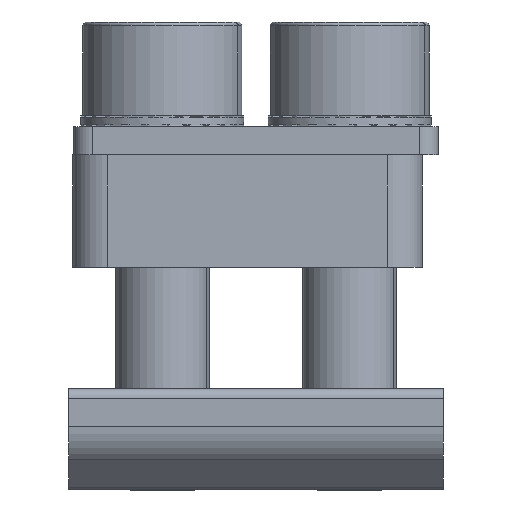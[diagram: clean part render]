
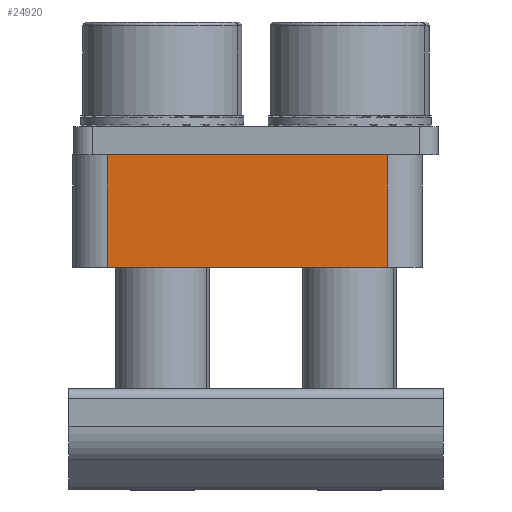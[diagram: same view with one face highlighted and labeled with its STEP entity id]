
A CAD part, front view. The second image highlights one B-rep face of the part: STEP entity #24920.
In plain terms, the highlighted planar face has unit normal (0, -1, 0).
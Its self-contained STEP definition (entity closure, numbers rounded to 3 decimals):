
#856 = VECTOR ( 'NONE', #24865, 1000. ) ;
#1020 = FACE_OUTER_BOUND ( 'NONE', #3218, .T. ) ;
#1109 = ORIENTED_EDGE ( 'NONE', *, *, #1941, .T. ) ;
#1941 = EDGE_CURVE ( 'NONE', #20655, #14446, #18126, .T. ) ;
#2312 = CARTESIAN_POINT ( 'NONE',  ( -141.008, -32.475, 69.693 ) ) ;
#3010 = CARTESIAN_POINT ( 'NONE',  ( -141.008, -32.475, 75.693 ) ) ;
#3218 = EDGE_LOOP ( 'NONE', ( #1109, #16205, #7694, #18033 ) ) ;
#6026 = CARTESIAN_POINT ( 'NONE',  ( -133.541, -32.475, 69.693 ) ) ;
#6259 = EDGE_CURVE ( 'NONE', #14446, #20984, #22354, .T. ) ;
#6761 = DIRECTION ( 'NONE',  ( 0., -1., 0. ) ) ;
#7414 = CARTESIAN_POINT ( 'NONE',  ( -148.475, -32.475, 75.693 ) ) ;
#7694 = ORIENTED_EDGE ( 'NONE', *, *, #19590, .F. ) ;
#10272 = CARTESIAN_POINT ( 'NONE',  ( -148.475, -32.475, 69.693 ) ) ;
#11872 = CARTESIAN_POINT ( 'NONE',  ( -133.541, -32.475, 75.693 ) ) ;
#12204 = DIRECTION ( 'NONE',  ( 0., 0., 1. ) ) ;
#12507 = PLANE ( 'NONE',  #21326 ) ;
#13341 = CARTESIAN_POINT ( 'NONE',  ( -148.475, -32.475, 72.693 ) ) ;
#14446 = VERTEX_POINT ( 'NONE', #6026 ) ;
#16205 = ORIENTED_EDGE ( 'NONE', *, *, #6259, .T. ) ;
#16265 = VECTOR ( 'NONE', #20487, 1000. ) ;
#17652 = EDGE_CURVE ( 'NONE', #19740, #20655, #20885, .T. ) ;
#17840 = DIRECTION ( 'NONE',  ( 1., 0., 0. ) ) ;
#18033 = ORIENTED_EDGE ( 'NONE', *, *, #17652, .T. ) ;
#18126 = LINE ( 'NONE', #2312, #23234 ) ;
#18411 = CARTESIAN_POINT ( 'NONE',  ( -148.475, -32.475, 75.693 ) ) ;
#19590 = EDGE_CURVE ( 'NONE', #19740, #20984, #21412, .T. ) ;
#19740 = VERTEX_POINT ( 'NONE', #7414 ) ;
#20360 = DIRECTION ( 'NONE',  ( 0., 0., -1. ) ) ;
#20487 = DIRECTION ( 'NONE',  ( 1., 0., 0. ) ) ;
#20655 = VERTEX_POINT ( 'NONE', #10272 ) ;
#20885 = LINE ( 'NONE', #13341, #856 ) ;
#20984 = VERTEX_POINT ( 'NONE', #11872 ) ;
#21326 = AXIS2_PLACEMENT_3D ( 'NONE', #18411, #6761, #20360 ) ;
#21412 = LINE ( 'NONE', #3010, #16265 ) ;
#21761 = VECTOR ( 'NONE', #12204, 1000. ) ;
#21807 = CARTESIAN_POINT ( 'NONE',  ( -133.541, -32.475, 72.693 ) ) ;
#22354 = LINE ( 'NONE', #21807, #21761 ) ;
#23234 = VECTOR ( 'NONE', #17840, 1000. ) ;
#24865 = DIRECTION ( 'NONE',  ( 0., 0., -1. ) ) ;
#24920 = ADVANCED_FACE ( 'NONE', ( #1020 ), #12507, .T. ) ;
